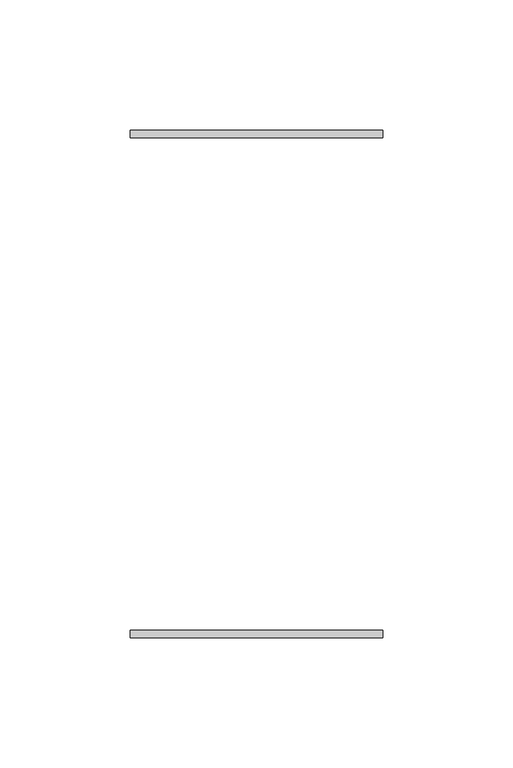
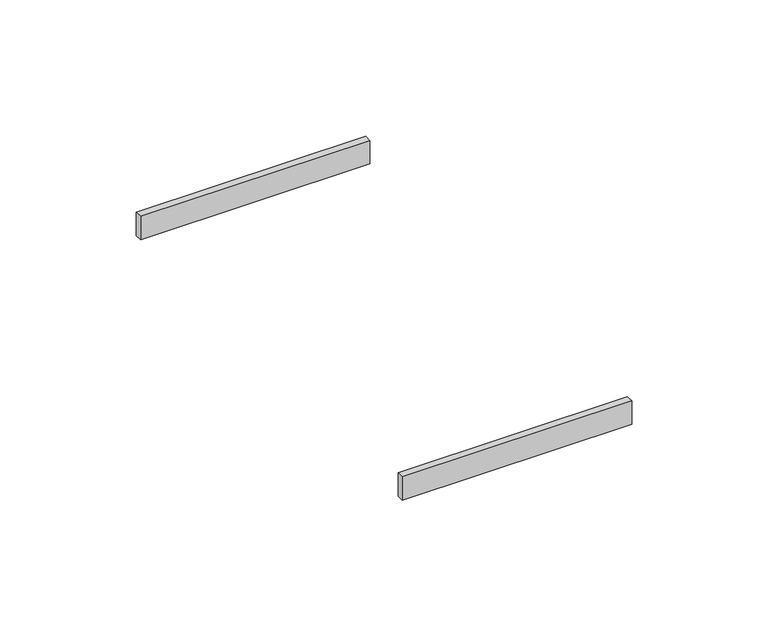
"""IFC4 building model written with IfcOpenShell, lengths in millimetres: cable carrier fitting geometry, Electrical_Installation_Hager_Trunking-Connector : Electrical_Installation_Hager_Trunking-Connector."""

from ifc_helpers import new_model, si_unit, frame, origin, place, context, project, spatial, polyline, outline, extrude, source, transform, mapped, element, save


def cable_carrier_fitting_430507f7(model_context):
    return source(origin(), model_context, "Body", "SweptSolid", [
        extrude(outline(polyline([(48.4677977, -94.5), (48.4677977, -97.5), (-48.4677977, -97.5), (-48.4677977, -94.5), (48.4677977, -94.5)])), frame((0.0, 0.0, -1.5), z_axis=(0.0, 0.0, 1.0), x_axis=(1.0, 0.0, 0.0)), (0.0, 0.0, 1.0), 10.5),
        extrude(outline(polyline([(48.4677977, 97.5), (48.4677977, 94.5), (-48.4677977, 94.5), (-48.4677977, 97.5), (48.4677977, 97.5)])), frame((0.0, 0.0, -1.5), z_axis=(0.0, 0.0, 1.0), x_axis=(1.0, 0.0, 0.0)), (0.0, 0.0, 1.0), 10.5),
    ])


if __name__ == "__main__":
    model = new_model("IFC4")
    model_context = context("Model", 3, world=origin())
    ifc_project = project(units=[si_unit("LENGTHUNIT", "METRE", prefix="MILLI")], contexts=[model_context])
    site = spatial("IfcSite", under=ifc_project)
    building = spatial("IfcBuilding", under=site)
    placement = place(None, origin())
    cable_carrier_fitting_shape = cable_carrier_fitting_430507f7(model_context)
    element("IfcCableCarrierFitting", 1, ObjectType="Electrical_Installation_Hager_Trunking-Connector : Electrical_Installation_Hager_Trunking-Connector", at=placement, inside=building, context=model_context, shape_type="MappedRepresentation", body=[
        mapped(cable_carrier_fitting_shape, transform((0.0, 0.0, 0.0), x_axis=(1.0, 0.0, 0.0), y_axis=(0.0, 1.0, 0.0), z_axis=(0.0, 0.0, 1.0))),
    ])
    save(model, "model.ifc")
